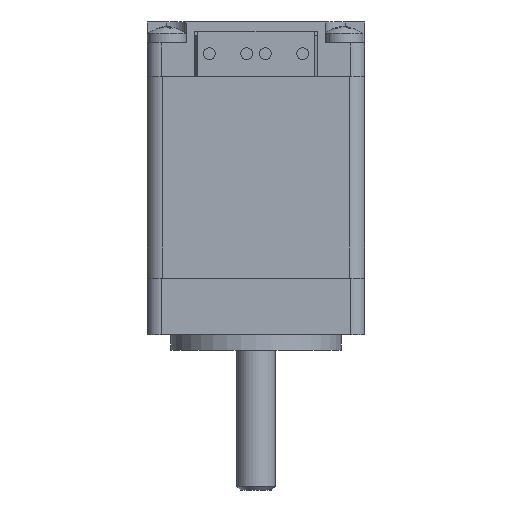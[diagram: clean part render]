
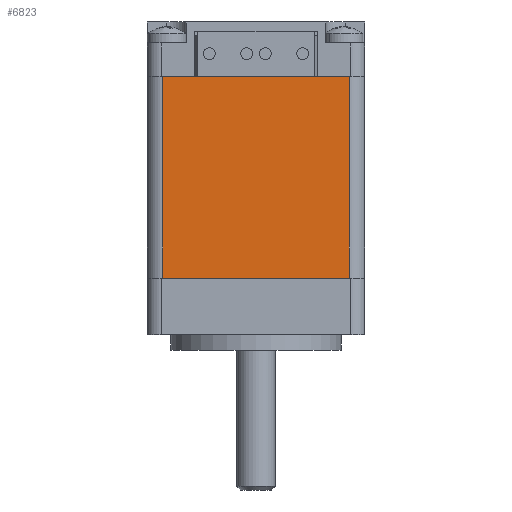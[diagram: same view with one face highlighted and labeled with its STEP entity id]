
A CAD part, front view. The second image highlights one B-rep face of the part: STEP entity #6823.
In plain terms, the highlighted planar face has unit normal (0, -1, 0) as drawn and (0, 1, 0) by its records, which use the part's own axes.
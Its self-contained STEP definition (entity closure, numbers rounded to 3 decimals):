
#43 = DIRECTION ( 'NONE',  ( 0., 0., -1. ) ) ;
#143 = CARTESIAN_POINT ( 'NONE',  ( 12., 14., 26. ) ) ;
#388 = CARTESIAN_POINT ( 'NONE',  ( -14., 14., 0. ) ) ;
#1077 = CARTESIAN_POINT ( 'NONE',  ( 12., 14., 17.3 ) ) ;
#1788 = DIRECTION ( 'NONE',  ( 0., -1., 0. ) ) ;
#1955 = VECTOR ( 'NONE', #3376, 1000. ) ;
#2958 = FACE_OUTER_BOUND ( 'NONE', #12490, .T. ) ;
#3376 = DIRECTION ( 'NONE',  ( -1., 0., 0. ) ) ;
#3452 = CARTESIAN_POINT ( 'NONE',  ( -12., 14., 17.3 ) ) ;
#4161 = LINE ( 'NONE', #388, #13760 ) ;
#4828 = DIRECTION ( 'NONE',  ( 1., 0., 0. ) ) ;
#4917 = CARTESIAN_POINT ( 'NONE',  ( -12., 14., 0. ) ) ;
#5308 = LINE ( 'NONE', #1077, #14032 ) ;
#5810 = CARTESIAN_POINT ( 'NONE',  ( 12., 14., 0. ) ) ;
#6823 = ADVANCED_FACE ( 'NONE', ( #2958 ), #12593, .F. ) ;
#7597 = EDGE_CURVE ( 'NONE', #10032, #12398, #9704, .T. ) ;
#7676 = EDGE_CURVE ( 'NONE', #13453, #10877, #5308, .T. ) ;
#7896 = ORIENTED_EDGE ( 'NONE', *, *, #10697, .F. ) ;
#8094 = ORIENTED_EDGE ( 'NONE', *, *, #7676, .F. ) ;
#8344 = CARTESIAN_POINT ( 'NONE',  ( -14., 14., 17.3 ) ) ;
#8436 = AXIS2_PLACEMENT_3D ( 'NONE', #8344, #1788, #13858 ) ;
#8745 = DIRECTION ( 'NONE',  ( 0., 0., 1. ) ) ;
#9317 = CARTESIAN_POINT ( 'NONE',  ( 12., 14., 26. ) ) ;
#9704 = LINE ( 'NONE', #3452, #10416 ) ;
#10032 = VERTEX_POINT ( 'NONE', #11098 ) ;
#10312 = ORIENTED_EDGE ( 'NONE', *, *, #11344, .F. ) ;
#10416 = VECTOR ( 'NONE', #43, 1000. ) ;
#10697 = EDGE_CURVE ( 'NONE', #10877, #10032, #14116, .T. ) ;
#10877 = VERTEX_POINT ( 'NONE', #9317 ) ;
#11098 = CARTESIAN_POINT ( 'NONE',  ( -12., 14., 26. ) ) ;
#11344 = EDGE_CURVE ( 'NONE', #12398, #13453, #4161, .T. ) ;
#12398 = VERTEX_POINT ( 'NONE', #4917 ) ;
#12490 = EDGE_LOOP ( 'NONE', ( #13129, #7896, #8094, #10312 ) ) ;
#12593 = PLANE ( 'NONE',  #8436 ) ;
#13129 = ORIENTED_EDGE ( 'NONE', *, *, #7597, .F. ) ;
#13453 = VERTEX_POINT ( 'NONE', #5810 ) ;
#13760 = VECTOR ( 'NONE', #4828, 1000. ) ;
#13858 = DIRECTION ( 'NONE',  ( 0., 0., -1. ) ) ;
#14032 = VECTOR ( 'NONE', #8745, 1000. ) ;
#14116 = LINE ( 'NONE', #143, #1955 ) ;
